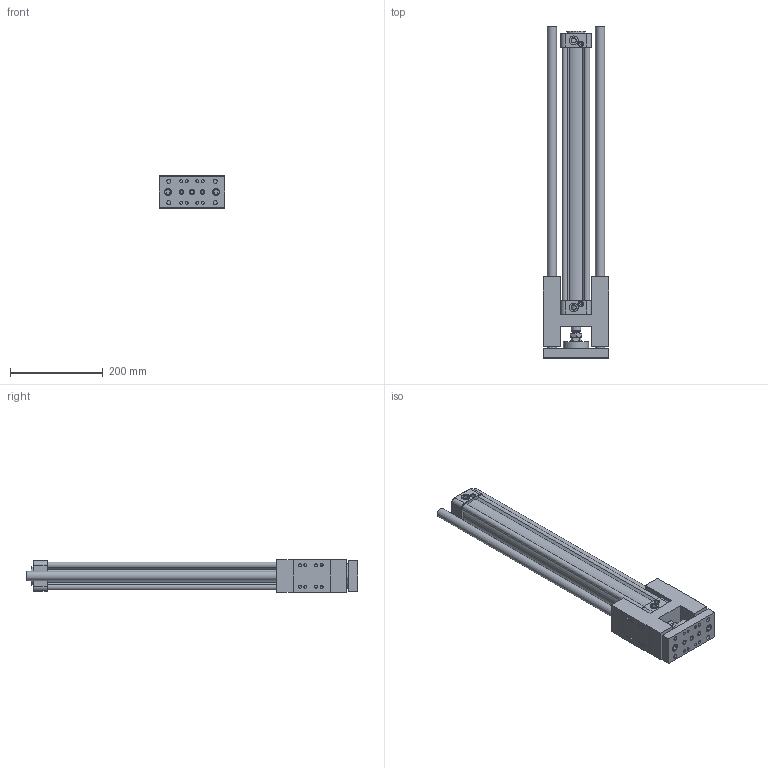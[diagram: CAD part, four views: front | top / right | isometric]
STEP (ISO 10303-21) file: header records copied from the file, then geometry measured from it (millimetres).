
FILE_DESCRIPTION((''),'2;1');
FILE_NAME('I:\3D電子目錄\氣缸\GHB(U)\GHB(U)\GHB(U)50\GHB(U)50x500.stp','2007-10-19T16:43:13',('Administrator'),(''),'Autodesk Inventor 11','Autodesk Inventor 11','');
FILE_SCHEMA(('AUTOMOTIVE_DESIGN { 1 0 10303 214 1 1 1 1 }'));
Length unit declared in the file: millimetre
Products named in the file (1): GHB(U)50
Bounding box: 141 x 716 x 70 mm (x, y, z)
Volume: 2080378.4 mm3; surface area: 540217.3 mm2
Topology: 1 solids, 13 shells, 779 faces, 1736 edges, 1075 vertices
Faces by surface type: plane 299, bspline 222, cylinder 163, cone 88, torus 7
Full cylindrical faces by diameter (mm): 2.5 x2, 6 x8, 6.647 x4, 6.7 x2, 6.75 x4, 7.25 x2, 7.4 x4, 7.5 x2, 8.5 x9, 9 x2, 9.8 x4, 10 x5, 11.5 x1, 11.9 x1, 12 x3, 13 x4, 14 x8, 14.5 x2, 16 x3, 19 x2, 20 x4, 23 x1, 25 x1, 26 x2, 40 x1, 50 x1, 54 x1
Entity records: 22633 total; most frequent: CARTESIAN_POINT 7068, DIRECTION 3100, ORIENTED_EDGE 3020, EDGE_CURVE 1510, AXIS2_PLACEMENT_3D 1202, EDGE_LOOP 1071, VERTEX_POINT 1029, FACE_OUTER_BOUND 778
